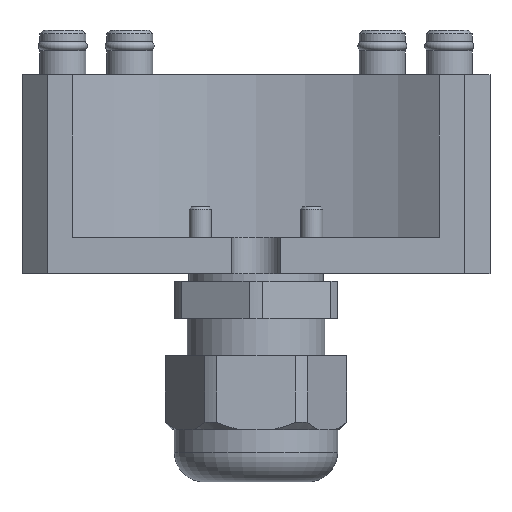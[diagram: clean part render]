
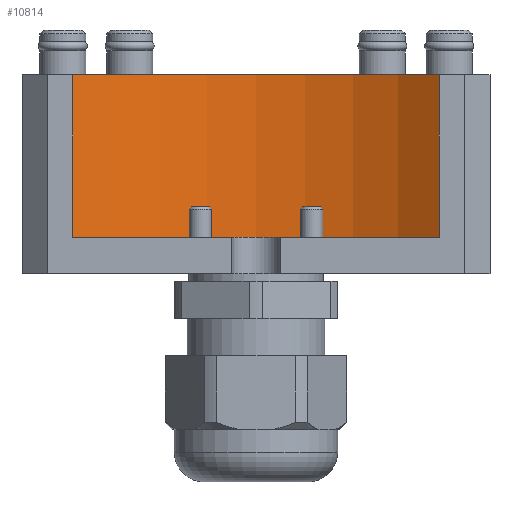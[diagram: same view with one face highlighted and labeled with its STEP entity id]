
A CAD part, front view. The second image highlights one B-rep face of the part: STEP entity #10814.
In plain terms, the highlighted cylindrical face has radius 40.1 mm (diameter 80.2 mm), a partial arc.
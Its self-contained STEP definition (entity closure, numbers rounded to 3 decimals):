
#1152=FACE_OUTER_BOUND('',#1857,.T.);
#1857=EDGE_LOOP('',(#9289,#9290,#9291,#9292));
#2676=CIRCLE('',#12163,40.1);
#2718=CIRCLE('',#12224,40.1);
#3299=LINE('',#20231,#3858);
#3300=LINE('',#20233,#3859);
#3858=VECTOR('',#15532,10.);
#3859=VECTOR('',#15533,10.);
#4838=VERTEX_POINT('',#20055);
#4839=VERTEX_POINT('',#20056);
#4889=VERTEX_POINT('',#20230);
#4890=VERTEX_POINT('',#20232);
#6312=EDGE_CURVE('',#4838,#4839,#2676,.T.);
#6381=EDGE_CURVE('',#4839,#4889,#3299,.T.);
#6382=EDGE_CURVE('',#4890,#4838,#3300,.T.);
#6383=EDGE_CURVE('',#4889,#4890,#2718,.T.);
#9289=ORIENTED_EDGE('',*,*,#6381,.F.);
#9290=ORIENTED_EDGE('',*,*,#6312,.F.);
#9291=ORIENTED_EDGE('',*,*,#6382,.F.);
#9292=ORIENTED_EDGE('',*,*,#6383,.F.);
#9694=CYLINDRICAL_SURFACE('',#12223,40.1);
#10814=ADVANCED_FACE('',(#1152),#9694,.F.);
#12163=AXIS2_PLACEMENT_3D('',#20057,#15386,#15387);
#12223=AXIS2_PLACEMENT_3D('',#20229,#15530,#15531);
#12224=AXIS2_PLACEMENT_3D('',#20234,#15534,#15535);
#15386=DIRECTION('center_axis',(0.,0.,-1.));
#15387=DIRECTION('ref_axis',(-1.,0.,0.));
#15530=DIRECTION('center_axis',(0.,0.,-1.));
#15531=DIRECTION('ref_axis',(-1.,0.,0.));
#15532=DIRECTION('',(0.,0.,-1.));
#15533=DIRECTION('',(0.,0.,1.));
#15534=DIRECTION('center_axis',(0.,0.,1.));
#15535=DIRECTION('ref_axis',(-1.,0.,0.));
#20055=CARTESIAN_POINT('',(-24.687,31.6,26.8));
#20056=CARTESIAN_POINT('',(24.687,31.6,26.8));
#20057=CARTESIAN_POINT('Origin',(0.,0.,26.8));
#20229=CARTESIAN_POINT('Origin',(0.,0.,26.8));
#20230=CARTESIAN_POINT('',(24.687,31.6,4.9));
#20231=CARTESIAN_POINT('',(24.687,31.6,26.8));
#20232=CARTESIAN_POINT('',(-24.687,31.6,4.9));
#20233=CARTESIAN_POINT('',(-24.687,31.6,26.8));
#20234=CARTESIAN_POINT('Origin',(0.,0.,4.9));
